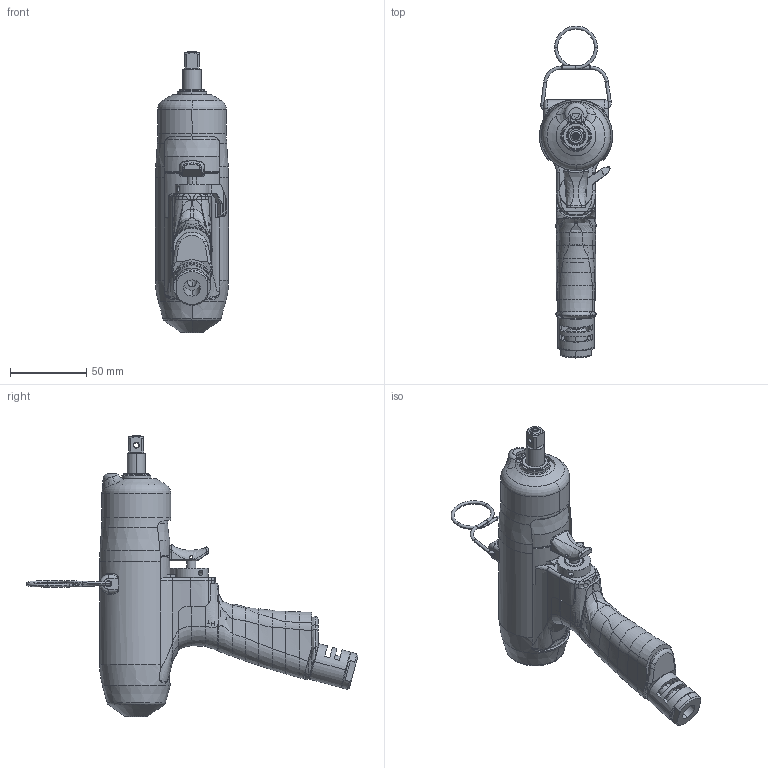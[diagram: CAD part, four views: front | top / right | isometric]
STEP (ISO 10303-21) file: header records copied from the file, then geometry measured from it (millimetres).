
FILE_DESCRIPTION((''),'2;1');
FILE_NAME('6151720810_WITH_COVER_AND_HANGE','2014-11-18T',('greextsd'),(''),'PRO/ENGINEER BY PARAMETRIC TECHNOLOGY CORPORATION, 2014200','PRO/ENGINEER BY PARAMETRIC TECHNOLOGY CORPORATION, 2014200','');
FILE_SCHEMA(('CONFIG_CONTROL_DESIGN'));
Length unit declared in the file: millimetre
Products named in the file (1): 6151720810_WITH_COVER_AND_HANGE
Bounding box: 47.96 x 217.24 x 184.3 mm (x, y, z)
Volume: 146686.8 mm3; surface area: 106848.5 mm2
Topology: 4 solids, 15 shells, 1101 faces, 2562 edges, 1528 vertices
Faces by surface type: bspline 313, cylinder 288, plane 277, cone 134, torus 80, sphere 8, extrusion 1
Entity records: 68848 total; most frequent: CARTESIAN_POINT 45956, ORIENTED_EDGE 5082, DIRECTION 4135, EDGE_CURVE 2551, AXIS2_PLACEMENT_3D 1666, VERTEX_POINT 1528, EDGE_LOOP 1194, FACE_OUTER_BOUND 1101
